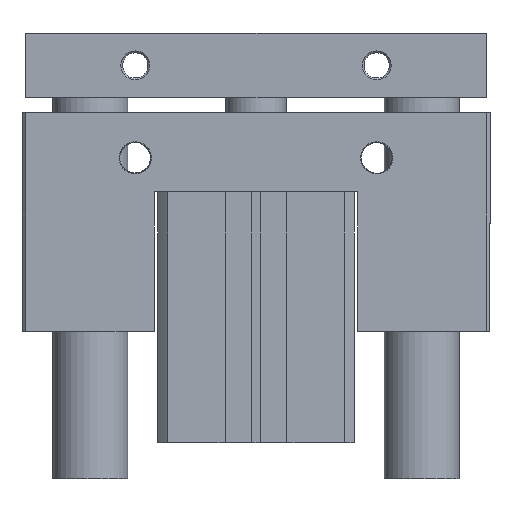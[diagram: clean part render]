
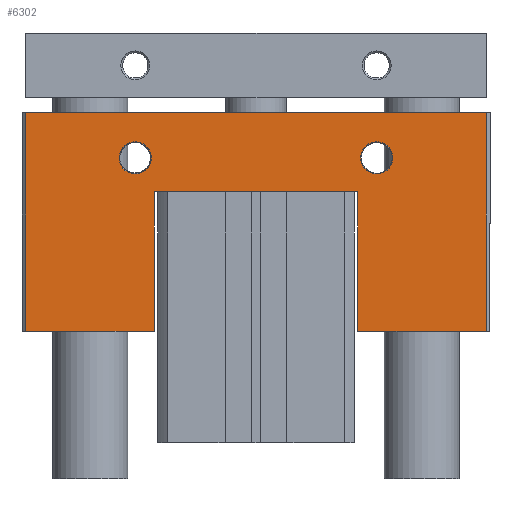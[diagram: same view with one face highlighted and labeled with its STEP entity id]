
A CAD part, front view. The second image highlights one B-rep face of the part: STEP entity #6302.
In plain terms, the highlighted planar face has unit normal (0, -1, 0).
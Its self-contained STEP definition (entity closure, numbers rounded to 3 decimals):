
#1027=CARTESIAN_POINT('',(-60.402,-25.945,87.5));
#1028=VERTEX_POINT('',#1027);
#1035=CARTESIAN_POINT('',(61.598,-25.945,87.5));
#1036=VERTEX_POINT('',#1035);
#1037=CARTESIAN_POINT('',(-60.402,-25.945,87.5));
#1038=DIRECTION('',(1.0,0.0,0.0));
#1039=VECTOR('',#1038,122.);
#1040=LINE('',#1037,#1039);
#1041=EDGE_CURVE('',#1028,#1036,#1040,.T.);
#2137=CARTESIAN_POINT('',(-60.402,-25.945,29.5));
#2138=VERTEX_POINT('',#2137);
#2145=CARTESIAN_POINT('',(-60.402,-25.945,29.5));
#2146=DIRECTION('',(0.0,0.0,1.0));
#2147=VECTOR('',#2146,58.);
#2148=LINE('',#2145,#2147);
#2149=EDGE_CURVE('',#2138,#1028,#2148,.T.);
#2159=CARTESIAN_POINT('',(61.598,-25.945,29.5));
#2160=VERTEX_POINT('',#2159);
#2169=CARTESIAN_POINT('',(61.598,-25.945,87.5));
#2170=DIRECTION('',(0.0,0.0,-1.0));
#2171=VECTOR('',#2170,58.);
#2172=LINE('',#2169,#2171);
#2173=EDGE_CURVE('',#1036,#2160,#2172,.T.);
#2334=CARTESIAN_POINT('',(28.348,-25.945,75.5));
#2335=VERTEX_POINT('',#2334);
#2336=CARTESIAN_POINT('',(32.598,-25.945,75.5));
#2337=DIRECTION('',(0.0,1.0,0.0));
#2338=DIRECTION('',(1.0,0.0,0.0));
#2339=AXIS2_PLACEMENT_3D('',#2336,#2337,#2338);
#2340=CIRCLE('',#2339,4.25);
#2341=EDGE_CURVE('',#2335,#2335,#2340,.T.);
#2413=CARTESIAN_POINT('',(-35.652,-25.945,75.5));
#2414=VERTEX_POINT('',#2413);
#2415=CARTESIAN_POINT('',(-31.402,-25.945,75.5));
#2416=DIRECTION('',(0.0,1.0,0.0));
#2417=DIRECTION('',(1.0,0.0,0.0));
#2418=AXIS2_PLACEMENT_3D('',#2415,#2416,#2417);
#2419=CIRCLE('',#2418,4.25);
#2420=EDGE_CURVE('',#2414,#2414,#2419,.T.);
#6248=CARTESIAN_POINT('',(0.598,-25.945,61.288));
#6249=DIRECTION('',(0.0,1.0,0.0));
#6250=DIRECTION('',(0.0,0.0,1.0));
#6251=AXIS2_PLACEMENT_3D('',#6248,#6249,#6250);
#6252=PLANE('',#6251);
#6253=ORIENTED_EDGE('',*,*,#2149,.F.);
#6254=CARTESIAN_POINT('',(-26.402,-25.945,29.5));
#6255=VERTEX_POINT('',#6254);
#6256=CARTESIAN_POINT('',(-26.402,-25.945,29.5));
#6257=DIRECTION('',(-1.0,0.0,0.0));
#6258=VECTOR('',#6257,34.);
#6259=LINE('',#6256,#6258);
#6260=EDGE_CURVE('',#6255,#2138,#6259,.T.);
#6261=ORIENTED_EDGE('',*,*,#6260,.F.);
#6262=CARTESIAN_POINT('',(-26.402,-25.945,66.5));
#6263=VERTEX_POINT('',#6262);
#6264=CARTESIAN_POINT('',(-26.402,-25.945,66.5));
#6265=DIRECTION('',(0.0,0.0,-1.0));
#6266=VECTOR('',#6265,37.);
#6267=LINE('',#6264,#6266);
#6268=EDGE_CURVE('',#6263,#6255,#6267,.T.);
#6269=ORIENTED_EDGE('',*,*,#6268,.F.);
#6270=CARTESIAN_POINT('',(27.598,-25.945,66.5));
#6271=VERTEX_POINT('',#6270);
#6272=CARTESIAN_POINT('',(27.598,-25.945,66.5));
#6273=DIRECTION('',(-1.0,0.0,0.0));
#6274=VECTOR('',#6273,54.0);
#6275=LINE('',#6272,#6274);
#6276=EDGE_CURVE('',#6271,#6263,#6275,.T.);
#6277=ORIENTED_EDGE('',*,*,#6276,.F.);
#6278=CARTESIAN_POINT('',(27.598,-25.945,29.5));
#6279=VERTEX_POINT('',#6278);
#6280=CARTESIAN_POINT('',(27.598,-25.945,29.5));
#6281=DIRECTION('',(0.0,0.0,1.0));
#6282=VECTOR('',#6281,37.);
#6283=LINE('',#6280,#6282);
#6284=EDGE_CURVE('',#6279,#6271,#6283,.T.);
#6285=ORIENTED_EDGE('',*,*,#6284,.F.);
#6286=CARTESIAN_POINT('',(61.598,-25.945,29.5));
#6287=DIRECTION('',(-1.0,0.0,0.0));
#6288=VECTOR('',#6287,34.0);
#6289=LINE('',#6286,#6288);
#6290=EDGE_CURVE('',#2160,#6279,#6289,.T.);
#6291=ORIENTED_EDGE('',*,*,#6290,.F.);
#6292=ORIENTED_EDGE('',*,*,#2173,.F.);
#6293=ORIENTED_EDGE('',*,*,#1041,.F.);
#6294=EDGE_LOOP('',(#6253,#6261,#6269,#6277,#6285,#6291,#6292,#6293));
#6295=FACE_OUTER_BOUND('',#6294,.T.);
#6296=ORIENTED_EDGE('',*,*,#2341,.T.);
#6297=EDGE_LOOP('',(#6296));
#6298=FACE_BOUND('',#6297,.T.);
#6299=ORIENTED_EDGE('',*,*,#2420,.T.);
#6300=EDGE_LOOP('',(#6299));
#6301=FACE_BOUND('',#6300,.T.);
#6302=ADVANCED_FACE('',(#6295,#6298,#6301),#6252,.F.);
